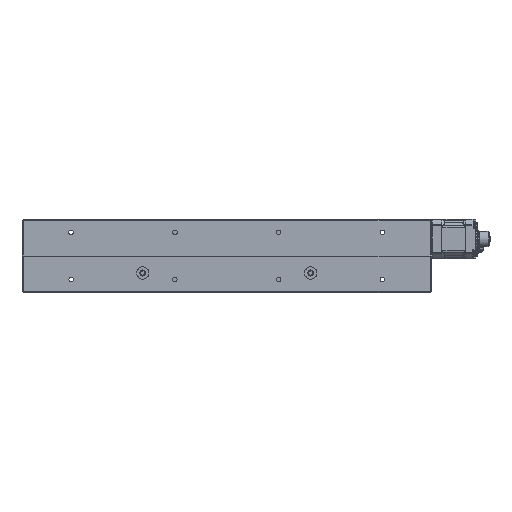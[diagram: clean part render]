
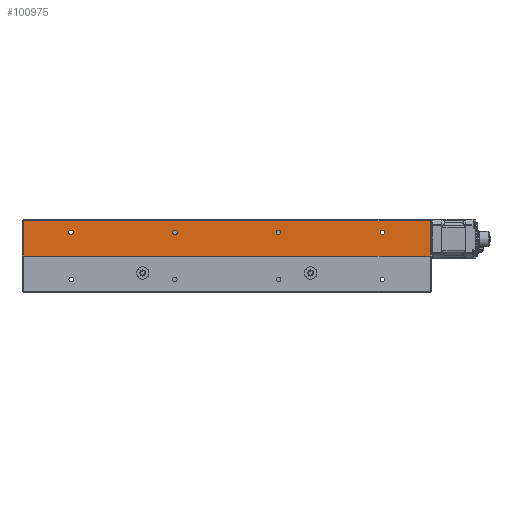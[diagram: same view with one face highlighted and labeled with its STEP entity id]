
A CAD part, left-side view. The second image highlights one B-rep face of the part: STEP entity #100975.
In plain terms, the highlighted planar face has unit normal (-1, 0, 0) as drawn and (0, 1, 0) by its records, which use the part's own axes.
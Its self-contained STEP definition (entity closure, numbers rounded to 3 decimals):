
#80188=CARTESIAN_POINT('',(-269.542,434.,-25.0));
#80189=VERTEX_POINT('',#80188);
#80190=CARTESIAN_POINT('',(-272.,434.0,-25.0));
#80191=DIRECTION('',(0.0,-1.0,0.0));
#80192=DIRECTION('',(1.0,0.0,0.0));
#80193=AXIS2_PLACEMENT_3D('',#80190,#80191,#80192);
#80194=CIRCLE('',#80193,2.459);
#80195=EDGE_CURVE('',#80189,#80189,#80194,.T.);
#80216=CARTESIAN_POINT('',(-159.542,434.,-25.0));
#80217=VERTEX_POINT('',#80216);
#80218=CARTESIAN_POINT('',(-162.,434.,-25.0));
#80219=DIRECTION('',(0.0,-1.0,0.0));
#80220=DIRECTION('',(1.0,0.0,0.0));
#80221=AXIS2_PLACEMENT_3D('',#80218,#80219,#80220);
#80222=CIRCLE('',#80221,2.459);
#80223=EDGE_CURVE('',#80217,#80217,#80222,.T.);
#100518=CARTESIAN_POINT('',(-379.542,434.,-25.0));
#100519=VERTEX_POINT('',#100518);
#100520=CARTESIAN_POINT('',(-382.,434.0,-25.0));
#100521=DIRECTION('',(0.0,-1.0,0.0));
#100522=DIRECTION('',(1.0,0.0,0.0));
#100523=AXIS2_PLACEMENT_3D('',#100520,#100521,#100522);
#100524=CIRCLE('',#100523,2.459);
#100525=EDGE_CURVE('',#100519,#100519,#100524,.T.);
#100566=CARTESIAN_POINT('',(-49.542,434.,-25.0));
#100567=VERTEX_POINT('',#100566);
#100568=CARTESIAN_POINT('',(-52.,434.,-25.0));
#100569=DIRECTION('',(0.0,-1.0,0.0));
#100570=DIRECTION('',(1.0,0.0,0.0));
#100571=AXIS2_PLACEMENT_3D('',#100568,#100569,#100570);
#100572=CIRCLE('',#100571,2.459);
#100573=EDGE_CURVE('',#100567,#100567,#100572,.T.);
#100785=CARTESIAN_POINT('',(-432.5,434.0,-37.5));
#100786=VERTEX_POINT('',#100785);
#100813=CARTESIAN_POINT('',(-1.5,434.,-37.5));
#100814=VERTEX_POINT('',#100813);
#100823=CARTESIAN_POINT('',(-432.5,434.0,-37.5));
#100824=DIRECTION('',(1.0,0.0,0.0));
#100825=VECTOR('',#100824,431.);
#100826=LINE('',#100823,#100825);
#100827=EDGE_CURVE('',#100786,#100814,#100826,.T.);
#100839=CARTESIAN_POINT('',(-432.5,434.0,0.0));
#100840=VERTEX_POINT('',#100839);
#100847=CARTESIAN_POINT('',(-432.5,434.0,0.0));
#100848=DIRECTION('',(0.0,0.0,-1.0));
#100849=VECTOR('',#100848,37.5);
#100850=LINE('',#100847,#100849);
#100851=EDGE_CURVE('',#100840,#100786,#100850,.T.);
#100922=CARTESIAN_POINT('',(-1.5,434.,0.0));
#100923=VERTEX_POINT('',#100922);
#100924=CARTESIAN_POINT('',(-1.5,434.,-37.5));
#100925=DIRECTION('',(0.0,0.0,1.0));
#100926=VECTOR('',#100925,37.5);
#100927=LINE('',#100924,#100926);
#100928=EDGE_CURVE('',#100814,#100923,#100927,.T.);
#100947=CARTESIAN_POINT('',(0.,434.,0.0));
#100948=DIRECTION('',(0.0,1.0,0.0));
#100949=DIRECTION('',(0.0,0.0,1.0));
#100950=AXIS2_PLACEMENT_3D('',#100947,#100948,#100949);
#100951=PLANE('',#100950);
#100952=ORIENTED_EDGE('',*,*,#100827,.F.);
#100953=ORIENTED_EDGE('',*,*,#100851,.F.);
#100954=CARTESIAN_POINT('',(-432.5,434.0,0.0));
#100955=DIRECTION('',(1.0,0.0,0.0));
#100956=VECTOR('',#100955,431.);
#100957=LINE('',#100954,#100956);
#100958=EDGE_CURVE('',#100840,#100923,#100957,.T.);
#100959=ORIENTED_EDGE('',*,*,#100958,.T.);
#100960=ORIENTED_EDGE('',*,*,#100928,.F.);
#100961=EDGE_LOOP('',(#100952,#100953,#100959,#100960));
#100962=FACE_OUTER_BOUND('',#100961,.T.);
#100963=ORIENTED_EDGE('',*,*,#80195,.T.);
#100964=EDGE_LOOP('',(#100963));
#100965=FACE_BOUND('',#100964,.T.);
#100966=ORIENTED_EDGE('',*,*,#80223,.T.);
#100967=EDGE_LOOP('',(#100966));
#100968=FACE_BOUND('',#100967,.T.);
#100969=ORIENTED_EDGE('',*,*,#100525,.T.);
#100970=EDGE_LOOP('',(#100969));
#100971=FACE_BOUND('',#100970,.T.);
#100972=ORIENTED_EDGE('',*,*,#100573,.T.);
#100973=EDGE_LOOP('',(#100972));
#100974=FACE_BOUND('',#100973,.T.);
#100975=ADVANCED_FACE('',(#100962,#100965,#100968,#100971,#100974),#100951,.T.);
